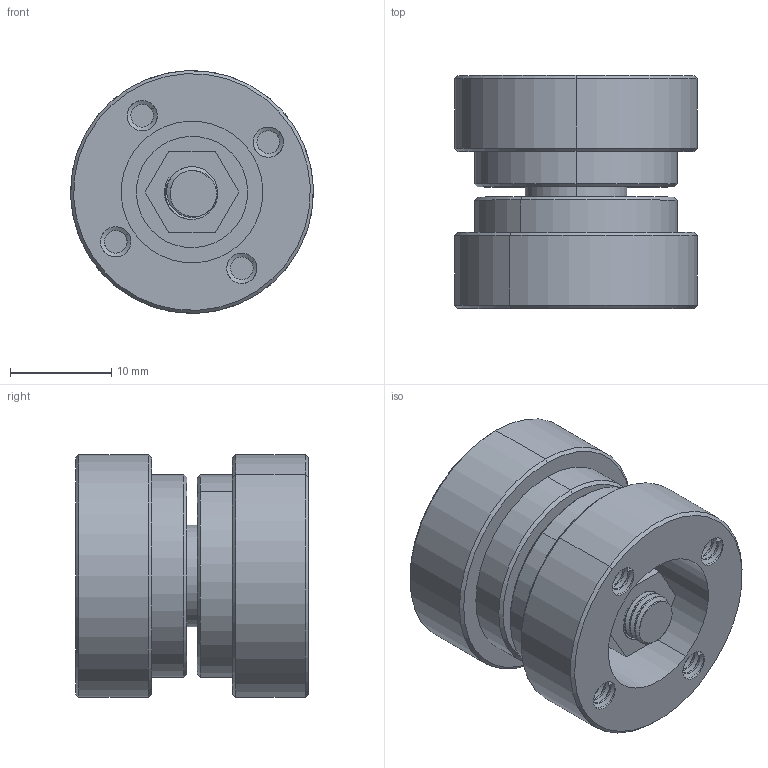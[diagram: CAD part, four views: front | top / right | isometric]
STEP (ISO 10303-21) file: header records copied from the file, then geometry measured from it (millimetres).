
FILE_DESCRIPTION (( 'STEP AP214' ), '1' );
FILE_NAME ('DP053-2.STEP', '2023-07-21T08:34:13', ( '' ), ( '' ), 'SwSTEP 2.0', 'SolidWorks 2019', '' );
FILE_SCHEMA (( 'AUTOMOTIVE_DESIGN' ));
Length unit declared in the file: millimetre
Products named in the file (5): M5蹟譫; 錨璃3; 錨璃2; 錨璃1; DP053-2
Assembly tree (4 placements, depth 2):
  DP053-2
    錨璃1
    錨璃2
    M5蹟譫
    錨璃3
Bounding box: 24 x 23 x 24 mm (x, y, z)
Volume: 6667.9 mm3; surface area: 6089.2 mm2
Topology: 7 solids, 7 shells, 324 faces, 853 edges, 558 vertices
Faces by surface type: cylinder 231, plane 51, bspline 30, cone 12
Entity records: 22497 total; most frequent: CARTESIAN_POINT 15581, ORIENTED_EDGE 1706, DIRECTION 1106, EDGE_CURVE 853, VERTEX_POINT 558, AXIS2_PLACEMENT_3D 418, EDGE_LOOP 351, FACE_OUTER_BOUND 324
